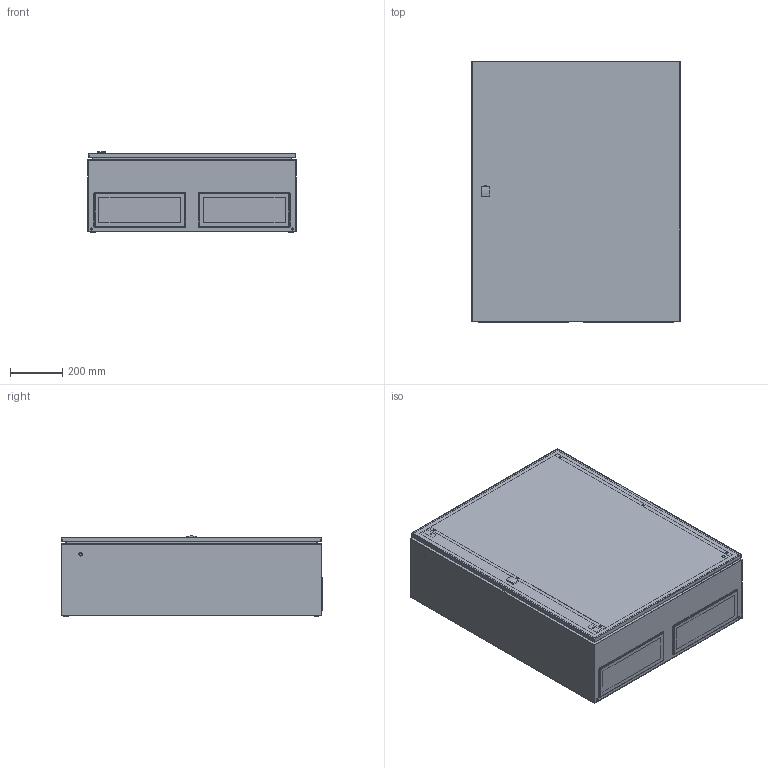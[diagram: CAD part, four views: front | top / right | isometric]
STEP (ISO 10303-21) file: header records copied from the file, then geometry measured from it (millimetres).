
FILE_DESCRIPTION(/* description */ ('STEP AP203'),/* implementation_level */ '2;1');
FILE_NAME(/* name */ 'MAS1008030R5(0)',/* time_stamp */ '2024-03-14T14:01:57+01:00',/* author */ ('License CC BY-ND 4.0'),/* organization */ ('CADENAS'),/* preprocessor_version */ 'ST-DEVELOPER v19.3',/* originating_system */ 'PARTsolutions',/* authorisation */ ' ');
FILE_SCHEMA (('CONFIG_CONTROL_DESIGN'));
Length unit declared in the file: millimetre
Products named in the file (10): MAS1008030R5(0); MAS1008030(0); MMSH06SS(0)_right; ADP10080R5(0); ALL503(0,2.8); MASLS1000(0); 8844-0649-02(0)_Rod guide; AMP10080_MPL(0); AF02R5_GP(0); AG02_GPG(0)
Assembly tree (14 placements, depth 2):
  MAS1008030R5(0)
    MAS1008030(0)
    MMSH06SS(0)_right  x3
    ADP10080R5(0)
    ALL503(0,2.8)
    MASLS1000(0)
    8844-0649-02(0)_Rod guide  x2
    AMP10080_MPL(0)
    AF02R5_GP(0)  x2
    AG02_GPG(0)  x2
Bounding box: 800 x 1003.9 x 307.67 mm (x, y, z)
Volume: 6842747.2 mm3; surface area: 7404418.2 mm2
Topology: 14 solids, 14 shells, 745 faces, 1814 edges, 1184 vertices
Faces by surface type: plane 507, cylinder 157, cone 72, torus 9
Full cylindrical faces by diameter (mm): 4 x4, 4.9 x3, 5 x1, 5.8 x2, 6 x8, 6.5 x2, 7 x8, 7.75 x2, 8 x13, 8.5 x4, 8.7 x2, 9 x3, 14 x9, 15 x4, 18 x1, 27 x1
Entity records: 19154 total; most frequent: CARTESIAN_POINT 3332, DIRECTION 3135, ORIENTED_EDGE 2874, EDGE_CURVE 1437, AXIS2_PLACEMENT_3D 1069, VERTEX_POINT 1004, LINE 997, VECTOR 997
